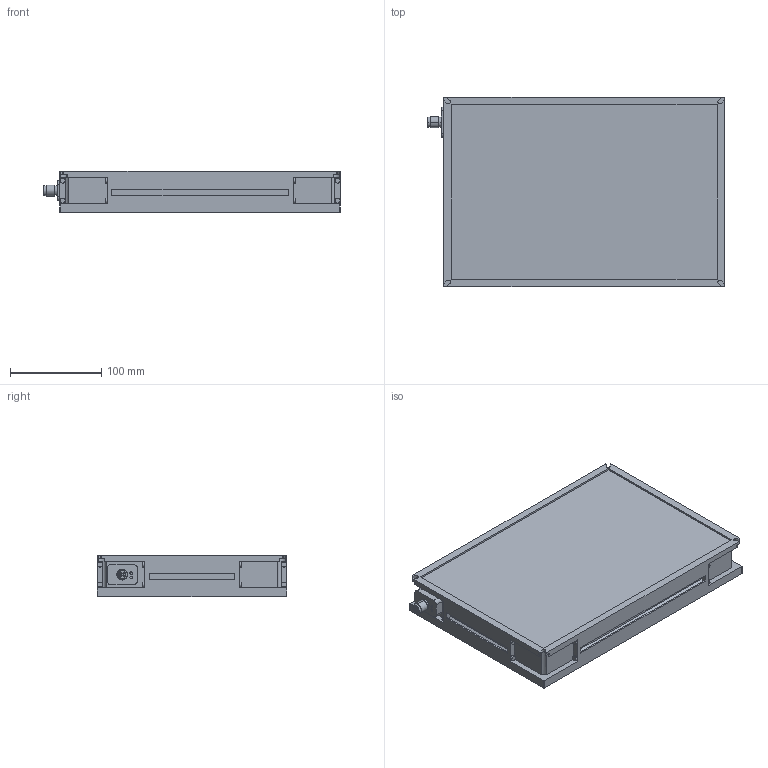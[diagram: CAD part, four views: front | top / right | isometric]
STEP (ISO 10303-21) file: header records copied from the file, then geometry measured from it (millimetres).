
FILE_DESCRIPTION (( 'STEP AP214' ), '1' );
FILE_NAME ('MBACK-xxxx-xxx-M1_CLIENT200x300.STEP', '2022-03-31T15:58:34', ( '' ), ( '' ), 'SwSTEP 2.0', 'SolidWorks 2020', '' );
FILE_SCHEMA (( 'AUTOMOTIVE_DESIGN' ));
Length unit declared in the file: millimetre
Products named in the file (1): MBACK-xxxx-xxx-M1_CLIENT200x300
Bounding box: 325.9 x 208 x 45.5 mm (x, y, z)
Volume: 2609911.4 mm3; surface area: 196384.8 mm2
Topology: 1 solids, 1 shells, 442 faces, 1144 edges, 760 vertices
Faces by surface type: plane 249, cylinder 105, bspline 80, cone 8
Entity records: 17236 total; most frequent: CARTESIAN_POINT 6699, ORIENTED_EDGE 2288, DIRECTION 1936, EDGE_CURVE 1144, VERTEX_POINT 760, VECTOR 758, LINE 758, AXIS2_PLACEMENT_3D 589
